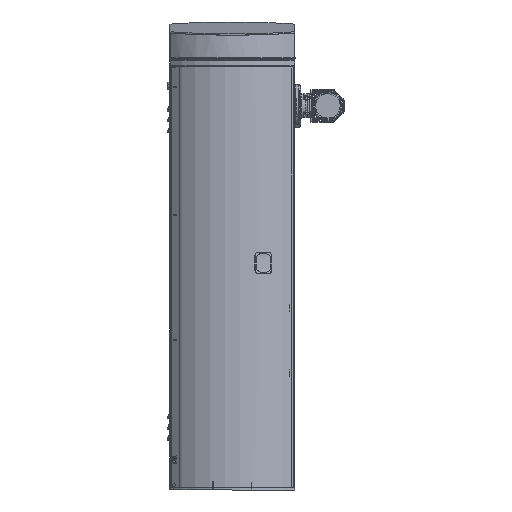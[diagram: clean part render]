
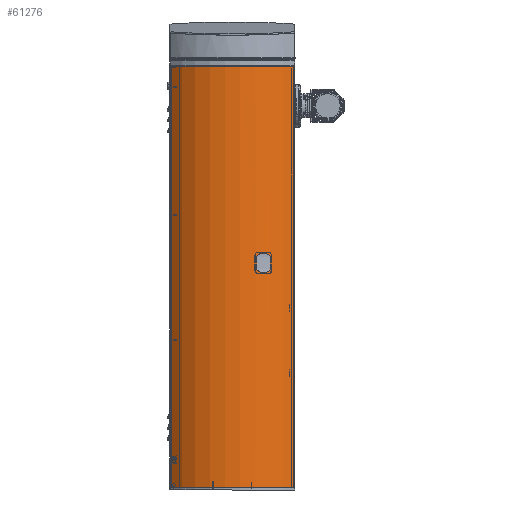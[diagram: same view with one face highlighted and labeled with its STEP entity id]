
A CAD part, left-side view. The second image highlights one B-rep face of the part: STEP entity #61276.
In plain terms, the highlighted cylindrical face has radius 201 mm (diameter 402 mm), a partial arc.
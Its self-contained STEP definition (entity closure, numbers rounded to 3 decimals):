
#434=B_SPLINE_CURVE_WITH_KNOTS('',3,(#113668,#113669,#113670,#113671,#113672,
#113673,#113674,#113675),.UNSPECIFIED.,.F.,.F.,(4,1,1,1,1,4),(0.,
0.005,0.007,0.01,0.014,
0.019),.UNSPECIFIED.);
#435=B_SPLINE_CURVE_WITH_KNOTS('',3,(#113680,#113681,#113682,#113683,#113684,
#113685,#113686,#113687),.UNSPECIFIED.,.F.,.F.,(4,1,1,1,1,4),(0.,
0.005,0.007,0.01,0.014,
0.019),.UNSPECIFIED.);
#436=B_SPLINE_CURVE_WITH_KNOTS('',3,(#113689,#113690,#113691,#113692,#113693),
 .UNSPECIFIED.,.F.,.F.,(4,1,4),(0.,0.01,0.02),
 .UNSPECIFIED.);
#437=B_SPLINE_CURVE_WITH_KNOTS('',3,(#113697,#113698,#113699,#113700,#113701),
 .UNSPECIFIED.,.F.,.F.,(4,1,4),(0.,0.01,
0.02),.UNSPECIFIED.);
#2425=CIRCLE('',#78429,201.);
#2429=CIRCLE('',#78434,201.);
#3189=CYLINDRICAL_SURFACE('',#78439,201.);
#18005=ORIENTED_EDGE('',*,*,#27186,.T.);
#18006=ORIENTED_EDGE('',*,*,#27187,.T.);
#18007=ORIENTED_EDGE('',*,*,#27188,.T.);
#18008=ORIENTED_EDGE('',*,*,#27189,.T.);
#18009=ORIENTED_EDGE('',*,*,#27190,.T.);
#18010=ORIENTED_EDGE('',*,*,#27191,.T.);
#18011=ORIENTED_EDGE('',*,*,#27181,.F.);
#18012=ORIENTED_EDGE('',*,*,#27185,.F.);
#18013=ORIENTED_EDGE('',*,*,#27177,.T.);
#18014=ORIENTED_EDGE('',*,*,#27192,.T.);
#27177=EDGE_CURVE('',#33017,#33016,#2425,.F.);
#27181=EDGE_CURVE('',#33019,#33020,#2429,.F.);
#27185=EDGE_CURVE('',#33017,#33019,#39168,.T.);
#27186=EDGE_CURVE('',#33022,#33023,#434,.T.);
#27187=EDGE_CURVE('',#33023,#33024,#39169,.F.);
#27188=EDGE_CURVE('',#33024,#33025,#435,.T.);
#27189=EDGE_CURVE('',#33025,#33026,#436,.T.);
#27190=EDGE_CURVE('',#33026,#33027,#39170,.T.);
#27191=EDGE_CURVE('',#33027,#33022,#437,.T.);
#27192=EDGE_CURVE('',#33016,#33020,#39171,.T.);
#33016=VERTEX_POINT('',#113650);
#33017=VERTEX_POINT('',#113652);
#33019=VERTEX_POINT('',#113658);
#33020=VERTEX_POINT('',#113660);
#33022=VERTEX_POINT('',#113676);
#33023=VERTEX_POINT('',#113677);
#33024=VERTEX_POINT('',#113679);
#33025=VERTEX_POINT('',#113688);
#33026=VERTEX_POINT('',#113694);
#33027=VERTEX_POINT('',#113696);
#39168=LINE('',#113666,#45334);
#39169=LINE('',#113678,#45335);
#39170=LINE('',#113695,#45336);
#39171=LINE('',#113702,#45337);
#45334=VECTOR('',#93977,1000.);
#45335=VECTOR('',#93980,1000.);
#45336=VECTOR('',#93981,1000.);
#45337=VECTOR('',#93982,1000.);
#50317=EDGE_LOOP('',(#18005,#18006,#18007,#18008,#18009,#18010));
#50318=EDGE_LOOP('',(#18011,#18012,#18013,#18014));
#55180=FACE_BOUND('',#50317,.T.);
#55181=FACE_BOUND('',#50318,.T.);
#61276=ADVANCED_FACE('',(#55180,#55181),#3189,.T.);
#78429=AXIS2_PLACEMENT_3D('',#113651,#93957,#93958);
#78434=AXIS2_PLACEMENT_3D('',#113659,#93967,#93968);
#78439=AXIS2_PLACEMENT_3D('',#113667,#93978,#93979);
#93957=DIRECTION('',(0.,0.,1.));
#93958=DIRECTION('',(-1.,0.,0.));
#93967=DIRECTION('',(0.,0.,1.));
#93968=DIRECTION('',(-1.,0.,0.));
#93977=DIRECTION('',(0.,0.,-1.));
#93978=DIRECTION('',(0.,0.,-1.));
#93979=DIRECTION('',(-1.,0.,0.));
#93980=DIRECTION('',(0.,0.,-1.));
#93981=DIRECTION('',(0.,0.,-1.));
#93982=DIRECTION('',(0.,0.,-1.));
#113650=CARTESIAN_POINT('',(-105.231,141.436,969.));
#113651=CARTESIAN_POINT('',(36.89,-0.7,969.));
#113652=CARTESIAN_POINT('',(-105.231,-142.836,969.));
#113658=CARTESIAN_POINT('',(-105.231,-142.836,6.));
#113659=CARTESIAN_POINT('',(36.89,-0.7,6.));
#113660=CARTESIAN_POINT('',(-105.231,141.436,6.));
#113666=CARTESIAN_POINT('',(-105.231,-142.836,969.));
#113667=CARTESIAN_POINT('',(36.89,-0.7,969.));
#113668=CARTESIAN_POINT('',(-151.213,-71.54,497.501));
#113669=CARTESIAN_POINT('',(-151.778,-70.041,497.488));
#113670=CARTESIAN_POINT('',(-152.596,-67.784,497.724));
#113671=CARTESIAN_POINT('',(-153.585,-64.902,498.527));
#113672=CARTESIAN_POINT('',(-154.523,-62.066,499.678));
#113673=CARTESIAN_POINT('',(-155.539,-58.811,501.702));
#113674=CARTESIAN_POINT('',(-156.187,-56.588,503.929));
#113675=CARTESIAN_POINT('',(-156.463,-55.614,505.174));
#113676=CARTESIAN_POINT('',(-151.213,-71.54,497.501));
#113677=CARTESIAN_POINT('',(-156.463,-55.614,505.174));
#113678=CARTESIAN_POINT('',(-156.463,-55.614,969.));
#113679=CARTESIAN_POINT('',(-156.463,-55.614,534.826));
#113680=CARTESIAN_POINT('',(-156.463,-55.614,534.826));
#113681=CARTESIAN_POINT('',(-156.187,-56.586,536.068));
#113682=CARTESIAN_POINT('',(-155.701,-58.255,537.74));
#113683=CARTESIAN_POINT('',(-154.934,-60.751,539.504));
#113684=CARTESIAN_POINT('',(-154.07,-63.46,540.984));
#113685=CARTESIAN_POINT('',(-152.869,-67.03,542.197));
#113686=CARTESIAN_POINT('',(-151.777,-70.041,542.512));
#113687=CARTESIAN_POINT('',(-151.214,-71.538,542.499));
#113688=CARTESIAN_POINT('',(-151.214,-71.538,542.499));
#113689=CARTESIAN_POINT('',(-151.214,-71.538,542.499));
#113690=CARTESIAN_POINT('',(-150.052,-74.622,542.526));
#113691=CARTESIAN_POINT('',(-147.597,-80.66,541.172));
#113692=CARTESIAN_POINT('',(-145.316,-85.591,537.312));
#113693=CARTESIAN_POINT('',(-144.38,-87.546,534.826));
#113694=CARTESIAN_POINT('',(-144.38,-87.546,534.826));
#113695=CARTESIAN_POINT('',(-144.38,-87.546,969.));
#113696=CARTESIAN_POINT('',(-144.38,-87.546,505.174));
#113697=CARTESIAN_POINT('',(-144.38,-87.546,505.174));
#113698=CARTESIAN_POINT('',(-145.315,-85.594,502.691));
#113699=CARTESIAN_POINT('',(-147.597,-80.661,498.826));
#113700=CARTESIAN_POINT('',(-150.053,-74.62,497.474));
#113701=CARTESIAN_POINT('',(-151.213,-71.54,497.501));
#113702=CARTESIAN_POINT('',(-105.231,141.436,969.));
